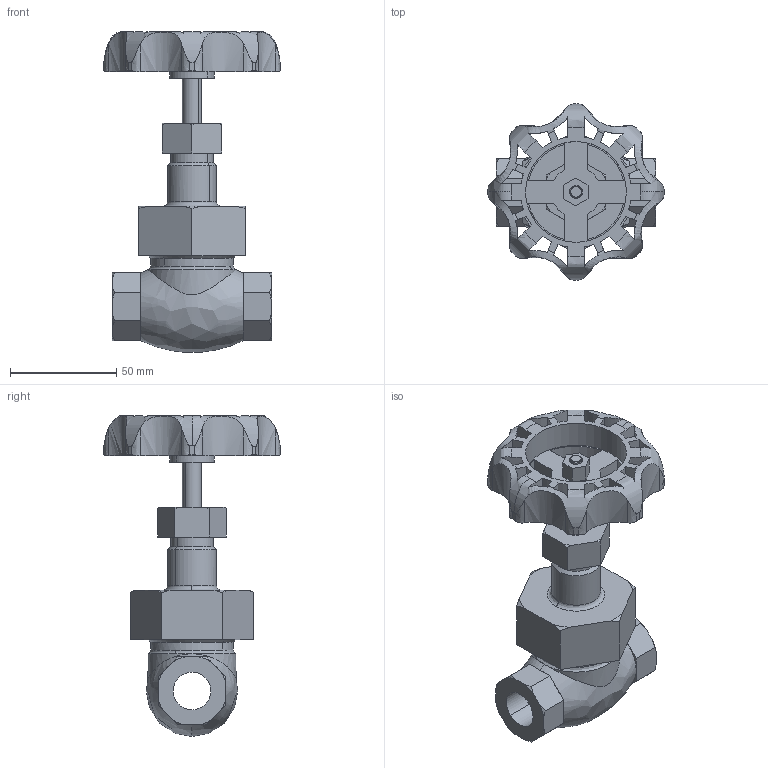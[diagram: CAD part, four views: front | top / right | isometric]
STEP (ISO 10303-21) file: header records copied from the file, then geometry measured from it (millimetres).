
FILE_DESCRIPTION((''),'2;1');
FILE_NAME('','2022-09-15T15:23:22',(''),(''),'','CADfix','');
FILE_SCHEMA(('AUTOMOTIVE_DESIGN { 1 0 10303 214 1 1 1 1 }'));
Length unit declared in the file: millimetre
Bounding box: 82.95 x 82.94 x 151.12 mm (x, y, z)
Volume: 186611.3 mm3; surface area: 48405.3 mm2
Topology: 1 solids, 1 shells, 244 faces, 803 edges, 556 vertices
Faces by surface type: bspline 244
Entity records: 11990 total; most frequent: CARTESIAN_POINT 7329, ORIENTED_EDGE 1606, EDGE_CURVE 803, VERTEX_POINT 556, B_SPLINE_CURVE_WITH_KNOTS 435, QUASI_UNIFORM_CURVE 348, EDGE_LOOP 281, FACE_OUTER_BOUND 244
